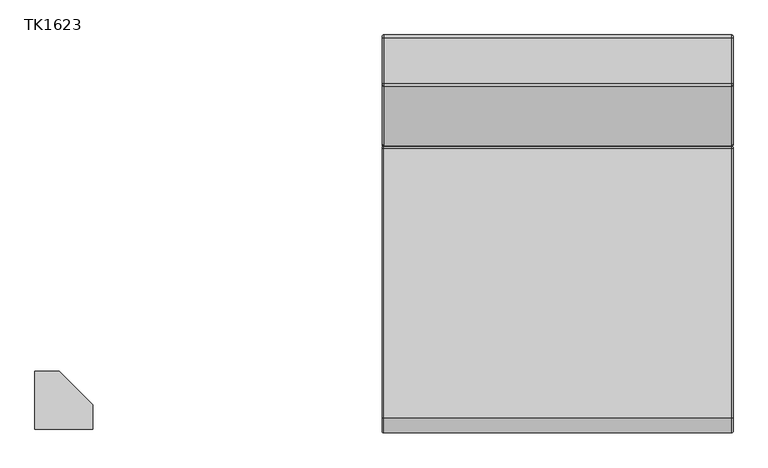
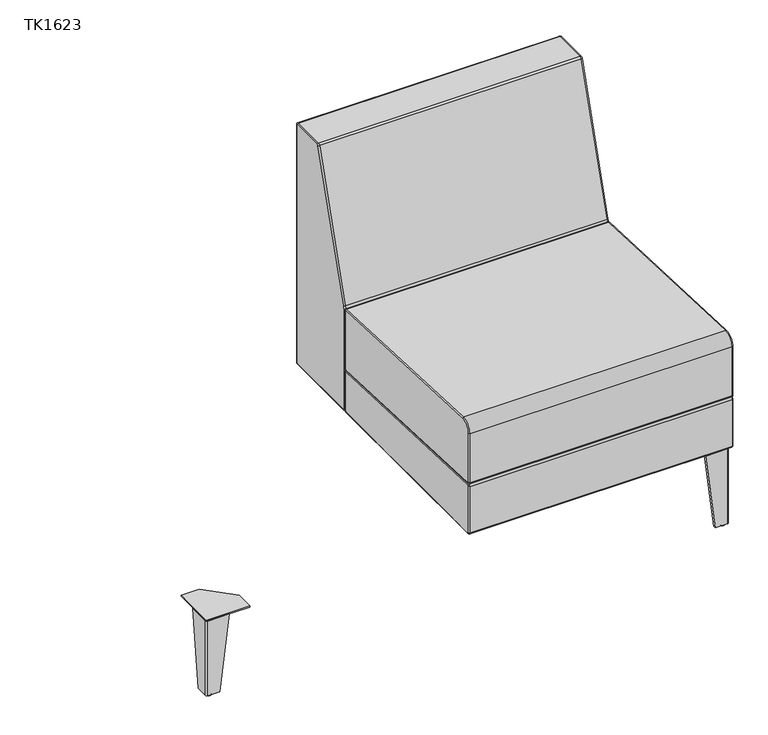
"""IFC4 building model written with IfcOpenShell, lengths in millimetres: furniture geometry, JSI-Teekan-Two_Seat_Lounge : TK1623."""

from ifc_helpers import new_model, si_unit, point, frame, origin, place, context, project, spatial, polyline, circle_curve, ellipse_curve, trimmed, outline, extrude, source, transform, mapped, element, save
from ifc_brep_helpers import plane_surface, cylinder_surface, revolved_surface, spline_surface, advanced_brep


def tk1623_fd01873e(model_context):
    return source(origin(), model_context, "Body", "SolidModel", [
        advanced_brep(
        [(613.56875, 148.7693192, 295.6513391), (613.56875, 153.733973, 300.4095468), (615.95, 151.352723, 300.4095468), (615.95, 148.8703961, 298.0304429), (2.38125, 148.7693192, 295.6513391), (2.38125, 153.733973, 300.4095468), (0.0, 148.8703961, 298.0304429), (0.0, 151.352723, 300.4095468), (615.95, -344.5512855, 318.9936072), (613.56875, -344.6523625, 316.6145034), (2.38125, -344.6523625, 316.6145034), (0.0, -344.5512855, 318.9936072), (613.56875, -322.7527962, 467.50355), (615.95, -322.8538731, 465.1244462), (615.95, 149.0725499, 445.0745142), (613.56875, 149.1736269, 447.4536181), (2.38125, 149.1736269, 447.4536181), (2.38125, -322.7527962, 467.50355), (0.0, 149.0725499, 445.0745142), (0.0, -322.8538731, 465.1244462), (615.95, 151.352723, 442.6954104), (613.56875, 153.733973, 442.6954104), (2.38125, 153.733973, 442.6954104), (0.0, 151.352723, 442.6954104), (615.95, -346.8497, 321.3917439), (613.56875, -349.23095, 321.3917439), (2.38125, -349.23095, 321.3917439), (0.0, -346.8497, 321.3917439), (615.95, -346.8497, 442.1264425), (613.56875, -349.23095, 442.1264425), (2.38125, -349.23095, 442.1264425), (0.0, -346.8497, 442.1264425)],
        [
            (0, 1, circle_curve(frame((613.56875, 148.971473, 300.4095468), z_axis=(1.0, 0.0, 0.0), x_axis=(0.0, 1.0, 0.0)), 4.7625)),
            (1, 2, circle_curve(frame((613.56875, 151.352723, 300.4095468), z_axis=(0.0, 0.0, -1.0), x_axis=(1.0, 0.0, 0.0)), 2.38125)),
            (2, 3, circle_curve(frame((615.95, 148.971473, 300.4095468), z_axis=(-1.0, 0.0, 0.0), x_axis=(0.0, 1.0, 0.0)), 2.38125)),
            (3, 0, circle_curve(frame((613.56875, 148.8703961, 298.0304429), z_axis=(0.0, 0.9990987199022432, -0.04244700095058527), x_axis=(1.0, 0.0, 0.0)), 2.38125)),
            (0, 4),
            (4, 5, circle_curve(frame((2.38125, 148.971473, 300.4095468), z_axis=(1.0, 0.0, 0.0), x_axis=(0.0, 1.0, 0.0)), 4.7625)),
            (5, 1),
            (4, 6, circle_curve(frame((2.38125, 148.8703961, 298.0304429), z_axis=(0.0, 0.999098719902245, -0.042447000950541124), x_axis=(1.0, 0.0, 0.0)), 2.38125)),
            (6, 7, circle_curve(frame((0.0, 148.971473, 300.4095468), z_axis=(1.0, 0.0, 0.0), x_axis=(0.0, 1.0, 0.0)), 2.38125)),
            (7, 5, circle_curve(frame((2.38125, 151.352723, 300.4095468), z_axis=(0.0, 0.0, -1.0), x_axis=(1.0, 0.0, 0.0)), 2.38125)),
            (3, 8),
            (8, 9, circle_curve(frame((613.56875, -344.5512855, 318.9936072), z_axis=(0.0, 0.9990987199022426, -0.04244700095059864), x_axis=(1.0, 0.0, 0.0)), 2.38125)),
            (9, 0),
            (9, 10),
            (10, 4),
            (10, 11, circle_curve(frame((2.38125, -344.5512855, 318.9936072), z_axis=(0.0, 0.9990987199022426, -0.04244700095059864), x_axis=(1.0, 0.0, 0.0)), 2.38125)),
            (11, 6),
            (12, 13, circle_curve(frame((613.56875, -322.8538731, 465.1244462), z_axis=(0.0, 0.9990987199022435, -0.0424470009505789), x_axis=(1.0, 0.0, 0.0)), 2.38125)),
            (13, 14),
            (14, 15, circle_curve(frame((613.56875, 149.0725499, 445.0745142), z_axis=(0.0, -0.9990987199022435, 0.0424470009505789), x_axis=(1.0, 0.0, 0.0)), 2.38125)),
            (15, 12),
            (15, 16),
            (16, 17),
            (17, 12),
            (16, 18, circle_curve(frame((2.38125, 149.0725499, 445.0745142), z_axis=(0.0, -0.9990987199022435, 0.0424470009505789), x_axis=(1.0, 0.0, 0.0)), 2.38125)),
            (18, 19),
            (19, 17, circle_curve(frame((2.38125, -322.8538731, 465.1244462), z_axis=(0.0, 0.9990987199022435, -0.0424470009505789), x_axis=(1.0, 0.0, 0.0)), 2.38125)),
            (14, 20, circle_curve(frame((615.95, 148.971473, 442.6954104), z_axis=(-1.0, 0.0, 0.0), x_axis=(0.0, 0.04244700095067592, 0.9990987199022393)), 2.38125)),
            (20, 21, circle_curve(frame((613.56875, 151.352723, 442.6954104), z_axis=(0.0, 0.0, 1.0), x_axis=(1.0, 0.0, 0.0)), 2.38125)),
            (21, 15, circle_curve(frame((613.56875, 148.971473, 442.6954104), z_axis=(1.0, 0.0, 0.0), x_axis=(0.0, 0.04244700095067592, 0.9990987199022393)), 4.7625)),
            (21, 22),
            (22, 16, circle_curve(frame((2.38125, 148.971473, 442.6954104), z_axis=(1.0, 0.0, 0.0), x_axis=(0.0, 0.04244700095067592, 0.9990987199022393)), 4.7625)),
            (22, 23, circle_curve(frame((2.38125, 151.352723, 442.6954104), z_axis=(0.0, 0.0, 1.0), x_axis=(1.0, 0.0, 0.0)), 2.38125)),
            (23, 18, circle_curve(frame((0.0, 148.971473, 442.6954104), z_axis=(1.0, 0.0, 0.0), x_axis=(0.0, 0.04244700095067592, 0.9990987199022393)), 2.38125)),
            (1, 21),
            (20, 2),
            (5, 22),
            (7, 23),
            (8, 24, circle_curve(frame((615.95, -344.4494, 321.3917439), z_axis=(-1.0, 0.0, 0.0), x_axis=(0.0, -0.04244700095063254, -0.9990987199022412)), 2.4003)),
            (24, 25, circle_curve(frame((613.56875, -346.8497, 321.3917439), z_axis=(0.0, 0.0, -1.0), x_axis=(1.0, 0.0, 0.0)), 2.38125)),
            (25, 9, circle_curve(frame((613.56875, -344.4494, 321.3917439), z_axis=(1.0, 0.0, 0.0), x_axis=(0.0, -0.04244700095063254, -0.9990987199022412)), 4.78155)),
            (25, 26),
            (26, 10, circle_curve(frame((2.38125, -344.4494, 321.3917439), z_axis=(1.0, 0.0, 0.0), x_axis=(0.0, -0.04244700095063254, -0.9990987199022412)), 4.78155)),
            (26, 27, circle_curve(frame((2.38125, -346.8497, 321.3917439), z_axis=(0.0, 0.0, -1.0), x_axis=(1.0, 0.0, 0.0)), 2.38125)),
            (27, 11, circle_curve(frame((0.0, -344.4494, 321.3917439), z_axis=(1.0, 0.0, 0.0), x_axis=(0.0, -0.04244700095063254, -0.9990987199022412)), 2.4003)),
            (24, 28),
            (28, 29, circle_curve(frame((613.56875, -346.8497, 442.1264425), z_axis=(0.0, 0.0, -1.0), x_axis=(1.0, 0.0, 0.0)), 2.38125)),
            (29, 25),
            (29, 30),
            (30, 26),
            (30, 31, circle_curve(frame((2.38125, -346.8497, 442.1264425), z_axis=(0.0, 0.0, -1.0), x_axis=(1.0, 0.0, 0.0)), 2.38125)),
            (31, 27),
            (13, 28, circle_curve(frame((615.95, -323.83095, 442.1264425), z_axis=(1.0, 0.0, 0.0), x_axis=(0.0, -1.0, 0.0)), 23.01875)),
            (12, 29, circle_curve(frame((613.56875, -323.83095, 442.1264425), z_axis=(1.0, 0.0, 0.0), x_axis=(0.0, -1.0, 0.0)), 25.4)),
            (17, 30, circle_curve(frame((2.38125, -323.83095, 442.1264425), z_axis=(1.0, 0.0, 0.0), x_axis=(0.0, -1.0, 0.0)), 25.4)),
            (19, 31, circle_curve(frame((0.0, -323.83095, 442.1264425), z_axis=(1.0, 0.0, 0.0), x_axis=(0.0, -1.0, 0.0)), 23.01875)),
        ],
        [
            revolved_surface(trimmed(ellipse_curve(frame((613.56875, 151.352723, 300.4095468), z_axis=(0.0, 0.0, 1.0), x_axis=(1.0, 0.0, 0.0)), 2.38125, 2.38125), [point((615.95, 151.352723, 300.4095468))], [point((613.56875, 153.733973, 300.4095468))], True, "CARTESIAN"), (307.975, 148.971473, 300.4095468), (-1.0, 0.0, 0.0)),
            cylinder_surface(frame((307.975, 148.971473, 300.4095468), z_axis=(-1.0, 0.0, 0.0), x_axis=(0.0, 1.0, 0.0)), 4.7625),
            revolved_surface(trimmed(ellipse_curve(frame((2.38125, 151.352723, 300.4095468), z_axis=(0.0, 0.0, 1.0), x_axis=(1.0, 0.0, 0.0)), 2.38125, 2.38125), [point((2.38125, 153.733973, 300.4095468))], [point((0.0, 151.352723, 300.4095468))], True, "CARTESIAN"), (307.975, 148.971473, 300.4095468), (-1.0, 0.0, 0.0)),
            cylinder_surface(frame((613.56875, 148.8703961, 298.0304429), z_axis=(0.0, 0.9990987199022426, -0.04244700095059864), x_axis=(1.0, 0.0, 0.0)), 2.38125),
            plane_surface(frame((613.56875, 148.7693192, 295.6513391), z_axis=(0.0, -0.04244700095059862, -0.9990987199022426), x_axis=(0.0, -0.9990987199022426, 0.04244700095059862))),
            cylinder_surface(frame((2.38125, 148.8703961, 298.0304429), z_axis=(0.0, 0.9990987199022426, -0.04244700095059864), x_axis=(1.0, 0.0, 0.0)), 2.38125),
            cylinder_surface(frame((613.56875, -322.8538731, 465.1244462), z_axis=(0.0, -0.9990987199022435, 0.0424470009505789), x_axis=(1.0, 0.0, 0.0)), 2.38125),
            plane_surface(frame((613.56875, -322.7527962, 467.50355), z_axis=(0.0, 0.04244700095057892, 0.9990987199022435), x_axis=(0.0, 0.9990987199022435, -0.04244700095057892))),
            cylinder_surface(frame((2.38125, -322.8538731, 465.1244462), z_axis=(0.0, -0.9990987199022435, 0.0424470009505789), x_axis=(1.0, 0.0, 0.0)), 2.38125),
            revolved_surface(trimmed(ellipse_curve(frame((613.56875, 149.0725499, 445.0745142), z_axis=(0.0, -0.9990987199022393, 0.04244700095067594), x_axis=(1.0, 0.0, 0.0)), 2.38125, 2.38125), [point((615.95, 149.0725499, 445.0745142))], [point((613.56875, 149.1736269, 447.4536181))], True, "CARTESIAN"), (307.975, 148.971473, 442.6954104), (-1.0, 0.0, 0.0)),
            cylinder_surface(frame((307.975, 148.971473, 442.6954104), z_axis=(-1.0, 0.0, 0.0), x_axis=(0.0, 0.04244700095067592, 0.9990987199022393)), 4.7625),
            revolved_surface(trimmed(ellipse_curve(frame((2.38125, 149.0725499, 445.0745142), z_axis=(0.0, -0.9990987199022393, 0.04244700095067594), x_axis=(1.0, 0.0, 0.0)), 2.38125, 2.38125), [point((2.38125, 149.1736269, 447.4536181))], [point((0.0, 149.0725499, 445.0745142))], True, "CARTESIAN"), (307.975, 148.971473, 442.6954104), (-1.0, 0.0, 0.0)),
            cylinder_surface(frame((613.56875, 151.352723, 442.6954104), z_axis=(0.0, 0.0, 1.0), x_axis=(1.0, 0.0, 0.0)), 2.38125),
            plane_surface(frame((613.56875, 153.733973, 442.6954104), z_axis=(0.0, 1.0, 0.0), x_axis=(0.0, 0.0, -1.0))),
            cylinder_surface(frame((2.38125, 151.352723, 442.6954104), z_axis=(0.0, 0.0, 1.0), x_axis=(1.0, 0.0, 0.0)), 2.38125),
            revolved_surface(trimmed(ellipse_curve(frame((613.56875, -344.5512855, 318.9936072), z_axis=(0.0, 0.9990987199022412, -0.042447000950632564), x_axis=(1.0, 0.0, 0.0)), 2.38125, 2.38125), [point((615.95, -344.5512855, 318.9936072))], [point((613.56875, -344.6523625, 316.6145034))], True, "CARTESIAN"), (307.975, -344.4494, 321.3917439), (-1.0, 0.0, 0.0)),
            cylinder_surface(frame((307.975, -344.4494, 321.3917439), z_axis=(-1.0, 0.0, 0.0), x_axis=(0.0, -0.04244700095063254, -0.9990987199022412)), 4.78155),
            revolved_surface(trimmed(ellipse_curve(frame((2.38125, -344.5512855, 318.9936072), z_axis=(0.0, 0.9990987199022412, -0.042447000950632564), x_axis=(1.0, 0.0, 0.0)), 2.38125, 2.38125), [point((2.38125, -344.6523625, 316.6145034))], [point((0.0, -344.5512855, 318.9936072))], True, "CARTESIAN"), (307.975, -344.4494, 321.3917439), (-1.0, 0.0, 0.0)),
            cylinder_surface(frame((613.56875, -346.8497, 321.3917439), z_axis=(0.0, 0.0, -1.0), x_axis=(1.0, 0.0, 0.0)), 2.38125),
            plane_surface(frame((613.56875, -349.23095, 321.3917439), z_axis=(0.0, -1.0, 0.0), x_axis=(0.0, 0.0, 1.0))),
            cylinder_surface(frame((2.38125, -346.8497, 321.3917439), z_axis=(0.0, 0.0, -1.0), x_axis=(1.0, 0.0, 0.0)), 2.38125),
            plane_surface(frame((615.95, -323.83095, 442.1264425), z_axis=(1.0, 0.0, 0.0), x_axis=(0.0, -1.0, 0.0))),
            revolved_surface(trimmed(ellipse_curve(frame((613.56875, -346.8497, 442.1264425), z_axis=(0.0, 0.0, -1.0), x_axis=(1.0, 0.0, 0.0)), 2.38125, 2.38125), [point((615.95, -346.8497, 442.1264425))], [point((613.56875, -349.23095, 442.1264425))], True, "CARTESIAN"), (307.975, -323.83095, 442.1264425), (-1.0, 0.0, 0.0)),
            cylinder_surface(frame((307.975, -323.83095, 442.1264425), z_axis=(-1.0, 0.0, 0.0), x_axis=(0.0, -1.0, 0.0)), 25.4),
            revolved_surface(trimmed(ellipse_curve(frame((2.38125, -346.8497, 442.1264425), z_axis=(0.0, 0.0, -1.0), x_axis=(1.0, 0.0, 0.0)), 2.38125, 2.38125), [point((2.38125, -349.23095, 442.1264425))], [point((0.0, -346.8497, 442.1264425))], True, "CARTESIAN"), (307.975, -323.83095, 442.1264425), (-1.0, 0.0, 0.0)),
            plane_surface(frame((0.0, -323.83095, 442.1264425), z_axis=(-1.0, 0.0, 0.0), x_axis=(0.0, -1.0, 0.0))),
        ],
        [
            (0, [[1, 2, 3, 4]]),
            (1, [[-1, 5, 6, 7]]),
            (2, [[-6, 8, 9, 10]]),
            (3, [[-4, 11, 12, 13]]),
            (4, [[-5, -13, 14, 15]]),
            (5, [[-8, -15, 16, 17]]),
            (6, [[18, 19, 20, 21]]),
            (7, [[-21, 22, 23, 24]]),
            (8, [[-23, 25, 26, 27]]),
            (9, [[-20, 28, 29, 30]]),
            (10, [[-22, -30, 31, 32]]),
            (11, [[-25, -32, 33, 34]]),
            (12, [[-2, 35, -29, 36]]),
            (13, [[-7, 37, -31, -35]]),
            (14, [[-10, 38, -33, -37]]),
            (15, [[-12, 39, 40, 41]]),
            (16, [[-14, -41, 42, 43]]),
            (17, [[-16, -43, 44, 45]]),
            (18, [[-40, 46, 47, 48]]),
            (19, [[-42, -48, 49, 50]]),
            (20, [[-44, -50, 51, 52]]),
            (21, [[-3, -36, -28, -19, 53, -46, -39, -11]]),
            (22, [[-18, 54, -47, -53]]),
            (23, [[-24, 55, -49, -54]]),
            (24, [[-27, 56, -51, -55]]),
            (25, [[-9, -17, -45, -52, -56, -26, -34, -38]]),
        ],
    ),
        advanced_brep(
        [(2.38125, -349.25, 197.5346851), (613.56875, -349.25, 197.5346851), (613.56875, -349.25, 311.8407029), (2.38125, -349.25, 311.8407029), (0.0, -346.86875, 311.8407029), (0.0, -346.86875, 197.5346851), (615.95, -346.86875, 197.5346851), (615.95, -346.86875, 311.8407029), (2.38125, -344.2853462, 316.5989106), (613.56875, -344.2853462, 316.5989106), (613.56875, 149.169864, 295.6343219), (2.38125, 149.169864, 295.6343219), (0.0, 149.0687871, 293.255218), (0.0, -344.3864231, 314.2198068), (615.95, -344.3864231, 314.2198068), (615.95, 149.0687871, 293.255218), (613.56875, 153.7302102, 290.8761142), (2.38125, 153.7302102, 290.8761142), (0.0, 151.3489602, 290.8761142), (615.95, 151.3489602, 290.8761142), (613.56875, 153.7302102, 197.5346851), (2.38125, 153.7302102, 197.5346851), (0.0, 151.3489602, 197.5346851), (615.95, 151.3489602, 197.5346851), (613.56875, 148.9677102, 192.7721851), (2.38125, 148.9677102, 192.7721851), (0.0, 148.9677102, 195.1534351), (615.95, 148.9677102, 195.1534351), (613.56875, -344.4875, 192.7721851), (2.38125, -344.4875, 192.7721851), (0.0, -344.4875, 195.1534351), (615.95, -344.4875, 195.1534351)],
        [
            (0, 1),
            (1, 2),
            (2, 3),
            (3, 0),
            (3, 4, circle_curve(frame((2.38125, -346.86875, 311.8407029), z_axis=(0.0, 0.0, -1.0), x_axis=(0.0, -1.0, 0.0)), 2.38125)),
            (4, 5),
            (5, 0, circle_curve(frame((2.38125, -346.86875, 197.5346851), z_axis=(0.0, 0.0, 1.0), x_axis=(0.0, -1.0, 0.0)), 2.38125)),
            (1, 6, circle_curve(frame((613.56875, -346.86875, 197.5346851), z_axis=(0.0, 0.0, 1.0), x_axis=(0.0, -1.0, 0.0)), 2.38125)),
            (6, 7),
            (7, 2, circle_curve(frame((613.56875, -346.86875, 311.8407029), z_axis=(0.0, 0.0, -1.0), x_axis=(0.0, -1.0, 0.0)), 2.38125)),
            (8, 9),
            (9, 10),
            (10, 11),
            (11, 8),
            (11, 12, circle_curve(frame((2.38125, 149.0687871, 293.255218), z_axis=(0.0, -0.9990987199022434, 0.04244700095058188), x_axis=(0.0, 0.04244700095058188, 0.9990987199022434)), 2.38125)),
            (12, 13),
            (13, 8, circle_curve(frame((2.38125, -344.3864231, 314.2198068), z_axis=(0.0, 0.9990987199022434, -0.04244700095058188), x_axis=(0.0, 0.04244700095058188, 0.9990987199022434)), 2.38125)),
            (9, 14, circle_curve(frame((613.56875, -344.3864231, 314.2198068), z_axis=(0.0, 0.9990987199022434, -0.04244700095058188), x_axis=(0.0, 0.04244700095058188, 0.9990987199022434)), 2.38125)),
            (14, 15),
            (15, 10, circle_curve(frame((613.56875, 149.0687871, 293.255218), z_axis=(0.0, -0.9990987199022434, 0.04244700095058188), x_axis=(0.0, 0.04244700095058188, 0.9990987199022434)), 2.38125)),
            (10, 16, circle_curve(frame((613.56875, 148.9677102, 290.8761142), z_axis=(-1.0, 0.0, 0.0), x_axis=(0.0, 0.0424470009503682, 0.9990987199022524)), 4.7625)),
            (16, 17),
            (17, 11, circle_curve(frame((2.38125, 148.9677102, 290.8761142), z_axis=(1.0, 0.0, 0.0), x_axis=(0.0, 0.0424470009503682, 0.9990987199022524)), 4.7625)),
            (17, 18, circle_curve(frame((2.38125, 151.3489602, 290.8761142), z_axis=(0.0, 0.0, 1.0), x_axis=(0.0, 1.0, 0.0)), 2.38125)),
            (18, 12, circle_curve(frame((0.0, 148.9677102, 290.8761142), z_axis=(1.0, 0.0, 0.0), x_axis=(0.0, 0.0424470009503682, 0.9990987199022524)), 2.38125)),
            (15, 19, circle_curve(frame((615.95, 148.9677102, 290.8761142), z_axis=(-1.0, 0.0, 0.0), x_axis=(0.0, 0.0424470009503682, 0.9990987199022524)), 2.38125)),
            (19, 16, circle_curve(frame((613.56875, 151.3489602, 290.8761142), z_axis=(0.0, 0.0, 1.0), x_axis=(0.0, 1.0, 0.0)), 2.38125)),
            (16, 20),
            (20, 21),
            (21, 17),
            (21, 22, circle_curve(frame((2.38125, 151.3489602, 197.5346851), z_axis=(0.0, 0.0, 1.0), x_axis=(0.0, 1.0, 0.0)), 2.38125)),
            (22, 18),
            (19, 23),
            (23, 20, circle_curve(frame((613.56875, 151.3489602, 197.5346851), z_axis=(0.0, 0.0, 1.0), x_axis=(0.0, 1.0, 0.0)), 2.38125)),
            (20, 24, circle_curve(frame((613.56875, 148.9677102, 197.5346851), z_axis=(-1.0, 0.0, 0.0), x_axis=(0.0, 1.0, 0.0)), 4.7625)),
            (24, 25),
            (25, 21, circle_curve(frame((2.38125, 148.9677102, 197.5346851), z_axis=(1.0, 0.0, 0.0), x_axis=(0.0, 1.0, 0.0)), 4.7625)),
            (25, 26, circle_curve(frame((2.38125, 148.9677102, 195.1534351), z_axis=(0.0, 1.0, 0.0), x_axis=(0.0, 0.0, -1.0)), 2.38125)),
            (26, 22, circle_curve(frame((0.0, 148.9677102, 197.5346851), z_axis=(1.0, 0.0, 0.0), x_axis=(0.0, 1.0, 0.0)), 2.38125)),
            (23, 27, circle_curve(frame((615.95, 148.9677102, 197.5346851), z_axis=(-1.0, 0.0, 0.0), x_axis=(0.0, 1.0, 0.0)), 2.38125)),
            (27, 24, circle_curve(frame((613.56875, 148.9677102, 195.1534351), z_axis=(0.0, 1.0, 0.0), x_axis=(0.0, 0.0, -1.0)), 2.38125)),
            (24, 28),
            (28, 29),
            (29, 25),
            (29, 30, circle_curve(frame((2.38125, -344.4875, 195.1534351), z_axis=(0.0, 1.0, 0.0), x_axis=(0.0, 0.0, -1.0)), 2.38125)),
            (30, 26),
            (27, 31),
            (31, 28, circle_curve(frame((613.56875, -344.4875, 195.1534351), z_axis=(0.0, 1.0, 0.0), x_axis=(0.0, 0.0, -1.0)), 2.38125)),
            (0, 29, circle_curve(frame((2.38125, -344.4875, 197.5346851), z_axis=(1.0, 0.0, 0.0), x_axis=(0.0, 0.0, -1.0)), 4.7625)),
            (28, 1, circle_curve(frame((613.56875, -344.4875, 197.5346851), z_axis=(-1.0, 0.0, 0.0), x_axis=(0.0, 0.0, -1.0)), 4.7625)),
            (5, 30, circle_curve(frame((0.0, -344.4875, 197.5346851), z_axis=(1.0, 0.0, 0.0), x_axis=(0.0, 0.0, -1.0)), 2.38125)),
            (31, 6, circle_curve(frame((615.95, -344.4875, 197.5346851), z_axis=(-1.0, 0.0, 0.0), x_axis=(0.0, 0.0, -1.0)), 2.38125)),
            (2, 9, circle_curve(frame((613.56875, -344.4875, 311.8407029), z_axis=(-1.0, 0.0, 0.0), x_axis=(0.0, -1.0, 0.0)), 4.7625)),
            (8, 3, circle_curve(frame((2.38125, -344.4875, 311.8407029), z_axis=(1.0, 0.0, 0.0), x_axis=(0.0, -1.0, 0.0)), 4.7625)),
            (13, 4, circle_curve(frame((0.0, -344.4875, 311.8407029), z_axis=(1.0, 0.0, 0.0), x_axis=(0.0, -1.0, 0.0)), 2.38125)),
            (14, 7, circle_curve(frame((615.95, -344.4875, 311.8407029), z_axis=(1.0, 0.0, 0.0), x_axis=(0.0, -1.0, 0.0)), 2.38125)),
        ],
        [
            plane_surface(frame((613.56875, -349.25, 197.5346851), z_axis=(0.0, -1.0, 0.0), x_axis=(0.0, 0.0, 1.0))),
            cylinder_surface(frame((2.38125, -346.86875, 197.5346851), z_axis=(0.0, 0.0, -1.0), x_axis=(0.0, -1.0, 0.0)), 2.38125),
            cylinder_surface(frame((613.56875, -346.86875, 197.5346851), z_axis=(0.0, 0.0, -1.0), x_axis=(0.0, -1.0, 0.0)), 2.38125),
            plane_surface(frame((613.56875, -344.2853462, 316.5989106), z_axis=(0.0, 0.04244700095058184, 0.9990987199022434), x_axis=(0.0, 0.9990987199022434, -0.04244700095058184))),
            cylinder_surface(frame((2.38125, -344.3864231, 314.2198068), z_axis=(0.0, -0.9990987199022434, 0.04244700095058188), x_axis=(0.0, 0.04244700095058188, 0.9990987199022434)), 2.38125),
            cylinder_surface(frame((613.56875, -344.3864231, 314.2198068), z_axis=(0.0, -0.9990987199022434, 0.04244700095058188), x_axis=(0.0, 0.04244700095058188, 0.9990987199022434)), 2.38125),
            cylinder_surface(frame((307.975, 148.9677102, 290.8761142), z_axis=(-1.0, 0.0, 0.0), x_axis=(0.0, 0.0424470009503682, 0.9990987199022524)), 4.7625),
            revolved_surface(trimmed(ellipse_curve(frame((2.38125, 149.0687871, 293.255218), z_axis=(0.0, -0.9990987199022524, 0.042447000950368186), x_axis=(0.0, 0.042447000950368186, 0.9990987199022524)), 2.38125, 2.38125), [point((2.38125, 149.169864, 295.6343219))], [point((0.0, 149.0687871, 293.255218))], True, "CARTESIAN"), (307.975, 148.9677102, 290.8761142), (-1.0, 0.0, 0.0)),
            revolved_surface(trimmed(ellipse_curve(frame((613.56875, 149.0687871, 293.255218), z_axis=(0.0, -0.9990987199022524, 0.042447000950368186), x_axis=(0.0, 0.042447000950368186, 0.9990987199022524)), 2.38125, 2.38125), [point((615.95, 149.0687871, 293.255218))], [point((613.56875, 149.169864, 295.6343219))], True, "CARTESIAN"), (307.975, 148.9677102, 290.8761142), (-1.0, 0.0, 0.0)),
            plane_surface(frame((613.56875, 153.7302102, 290.8761142), z_axis=(0.0, 1.0, 0.0), x_axis=(0.0, 0.0, -1.0))),
            cylinder_surface(frame((2.38125, 151.3489602, 290.8761142), z_axis=(0.0, 0.0, 1.0), x_axis=(0.0, 1.0, 0.0)), 2.38125),
            cylinder_surface(frame((613.56875, 151.3489602, 290.8761142), z_axis=(0.0, 0.0, 1.0), x_axis=(0.0, 1.0, 0.0)), 2.38125),
            cylinder_surface(frame((307.975, 148.9677102, 197.5346851), z_axis=(-1.0, 0.0, 0.0), x_axis=(0.0, 1.0, 0.0)), 4.7625),
            revolved_surface(trimmed(ellipse_curve(frame((2.38125, 151.3489602, 197.5346851), z_axis=(0.0, 0.0, 1.0), x_axis=(0.0, 1.0, 0.0)), 2.38125, 2.38125), [point((2.38125, 153.7302102, 197.5346851))], [point((0.0, 151.3489602, 197.5346851))], True, "CARTESIAN"), (307.975, 148.9677102, 197.5346851), (-1.0, 0.0, 0.0)),
            revolved_surface(trimmed(ellipse_curve(frame((613.56875, 151.3489602, 197.5346851), z_axis=(0.0, 0.0, 1.0), x_axis=(0.0, 1.0, 0.0)), 2.38125, 2.38125), [point((615.95, 151.3489602, 197.5346851))], [point((613.56875, 153.7302102, 197.5346851))], True, "CARTESIAN"), (307.975, 148.9677102, 197.5346851), (-1.0, 0.0, 0.0)),
            plane_surface(frame((613.56875, 148.9677102, 192.7721851), z_axis=(0.0, 0.0, -1.0), x_axis=(0.0, -1.0, 0.0))),
            cylinder_surface(frame((2.38125, 148.9677102, 195.1534351), z_axis=(0.0, 1.0, 0.0), x_axis=(0.0, 0.0, -1.0)), 2.38125),
            cylinder_surface(frame((613.56875, 148.9677102, 195.1534351), z_axis=(0.0, 1.0, 0.0), x_axis=(0.0, 0.0, -1.0)), 2.38125),
            cylinder_surface(frame((307.975, -344.4875, 197.5346851), z_axis=(-1.0, 0.0, 0.0), x_axis=(0.0, 0.0, -1.0)), 4.7625),
            revolved_surface(trimmed(ellipse_curve(frame((2.38125, -344.4875, 195.1534351), z_axis=(0.0, 1.0, 0.0), x_axis=(0.0, 0.0, -1.0)), 2.38125, 2.38125), [point((2.38125, -344.4875, 192.7721851))], [point((0.0, -344.4875, 195.1534351))], True, "CARTESIAN"), (307.975, -344.4875, 197.5346851), (-1.0, 0.0, 0.0)),
            revolved_surface(trimmed(ellipse_curve(frame((613.56875, -344.4875, 195.1534351), z_axis=(0.0, 1.0, 0.0), x_axis=(0.0, 0.0, -1.0)), 2.38125, 2.38125), [point((615.95, -344.4875, 195.1534351))], [point((613.56875, -344.4875, 192.7721851))], True, "CARTESIAN"), (307.975, -344.4875, 197.5346851), (-1.0, 0.0, 0.0)),
            cylinder_surface(frame((307.975, -344.4875, 311.8407029), z_axis=(-1.0, 0.0, 0.0), x_axis=(0.0, -1.0, 0.0)), 4.7625),
            revolved_surface(trimmed(ellipse_curve(frame((2.38125, -346.86875, 311.8407029), z_axis=(0.0, 0.0, -1.0), x_axis=(0.0, -1.0, 0.0)), 2.38125, 2.38125), [point((2.38125, -349.25, 311.8407029))], [point((0.0, -346.86875, 311.8407029))], True, "CARTESIAN"), (307.975, -344.4875, 311.8407029), (-1.0, 0.0, 0.0)),
            plane_surface(frame((0.0, -344.4875, 311.8407029), z_axis=(-1.0, 0.0, 0.0), x_axis=(0.0, -1.0, 0.0))),
            plane_surface(frame((615.95, -344.4875, 311.8407029), z_axis=(1.0, 0.0, 0.0), x_axis=(0.0, -1.0, 0.0))),
            revolved_surface(trimmed(ellipse_curve(frame((613.56875, -346.86875, 311.8407029), z_axis=(0.0, 0.0, -1.0), x_axis=(0.0, -1.0, 0.0)), 2.38125, 2.38125), [point((615.95, -346.86875, 311.8407029))], [point((613.56875, -349.25, 311.8407029))], True, "CARTESIAN"), (307.975, -344.4875, 311.8407029), (-1.0, 0.0, 0.0)),
        ],
        [
            (0, [[1, 2, 3, 4]]),
            (1, [[-4, 5, 6, 7]]),
            (2, [[-2, 8, 9, 10]]),
            (3, [[11, 12, 13, 14]]),
            (4, [[-14, 15, 16, 17]]),
            (5, [[-12, 18, 19, 20]]),
            (6, [[-13, 21, 22, 23]]),
            (7, [[-15, -23, 24, 25]]),
            (8, [[-20, 26, 27, -21]]),
            (9, [[-22, 28, 29, 30]]),
            (10, [[-24, -30, 31, 32]]),
            (11, [[-27, 33, 34, -28]]),
            (12, [[-29, 35, 36, 37]]),
            (13, [[-31, -37, 38, 39]]),
            (14, [[-34, 40, 41, -35]]),
            (15, [[-36, 42, 43, 44]]),
            (16, [[-38, -44, 45, 46]]),
            (17, [[-41, 47, 48, -42]]),
            (18, [[-1, 49, -43, 50]]),
            (19, [[-7, 51, -45, -49]]),
            (20, [[-8, -50, -48, 52]]),
            (21, [[-3, 53, -11, 54]]),
            (22, [[-5, -54, -17, 55]]),
            (23, [[-6, -55, -16, -25, -32, -39, -46, -51]]),
            (24, [[-9, -52, -47, -40, -33, -26, -19, 56]]),
            (25, [[-10, -56, -18, -53]]),
        ],
    ),
        advanced_brep(
        [(615.95, 261.4671324, 783.3496278), (615.95, 263.7394056, 785.01875), (613.56875, 263.7394056, 787.4), (613.56875, 259.1948592, 784.0617556), (2.38125, 259.1948592, 784.0617556), (2.38125, 263.7394056, 787.4), (0.0, 263.7394056, 785.01875), (0.0, 261.4671324, 783.3496278), (613.56875, 155.07802, 451.8434221), (615.95, 157.3502932, 451.1312943), (0.0, 157.3502932, 451.1312943), (2.38125, 155.07802, 451.8434221), (613.56875, 153.733973, 443.0605128), (615.95, 156.115223, 443.0605128), (0.0, 156.115223, 443.0605128), (2.38125, 153.733973, 443.0605128), (613.56875, 153.733973, 197.5346851), (615.95, 156.115223, 197.5346851), (0.0, 156.115223, 197.5346851), (2.38125, 153.733973, 197.5346851), (613.56875, 158.496473, 192.7721851), (615.95, 158.496473, 195.1534351), (0.0, 158.496473, 195.1534351), (2.38125, 158.496473, 192.7721851), (613.56875, 344.4875, 192.7721851), (615.95, 344.4875, 195.1534351), (0.0, 344.4875, 195.1534351), (2.38125, 344.4875, 192.7721851), (613.56875, 349.25, 197.5346851), (615.95, 346.86875, 197.5346851), (0.0, 346.86875, 197.5346851), (2.38125, 349.25, 197.5346851), (613.56875, 349.25, 782.6375), (615.95, 346.86875, 782.6375), (0.0, 346.86875, 782.6375), (2.38125, 349.25, 782.6375), (613.56875, 344.4875, 787.4), (615.95, 344.4875, 785.01875), (0.0, 344.4875, 785.01875), (2.38125, 344.4875, 787.4)],
        [
            (0, 1, circle_curve(frame((615.95, 263.7394056, 782.6375), z_axis=(-1.0, 0.0, 0.0), x_axis=(0.0, 0.0, 1.0)), 2.38125)),
            (1, 2, circle_curve(frame((613.56875, 263.7394056, 785.01875), z_axis=(0.0, -1.0, 0.0), x_axis=(0.0, 0.0, -1.0)), 2.38125)),
            (2, 3, circle_curve(frame((613.56875, 263.7394056, 782.6375), z_axis=(1.0, 0.0, 0.0), x_axis=(0.0, 0.0, 1.0)), 4.7625)),
            (3, 0, circle_curve(frame((613.56875, 261.4671324, 783.3496278), z_axis=(0.0, 0.2990562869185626, 0.9542354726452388), x_axis=(0.0, 0.9542354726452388, -0.2990562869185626)), 2.38125)),
            (4, 5, circle_curve(frame((2.38125, 263.7394056, 782.6375), z_axis=(-1.0, 0.0, 0.0), x_axis=(0.0, 0.0, 1.0)), 4.7625)),
            (5, 6, circle_curve(frame((2.38125, 263.7394056, 785.01875), z_axis=(0.0, -1.0, 0.0), x_axis=(0.0, 0.0, -1.0)), 2.38125)),
            (6, 7, circle_curve(frame((0.0, 263.7394056, 782.6375), z_axis=(1.0, 0.0, 0.0), x_axis=(0.0, 0.0, 1.0)), 2.38125)),
            (7, 4, circle_curve(frame((2.38125, 261.4671324, 783.3496278), z_axis=(0.0, 0.29905628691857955, 0.9542354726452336), x_axis=(0.0, 0.9542354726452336, -0.29905628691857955)), 2.38125)),
            (2, 5),
            (4, 3),
            (3, 8),
            (8, 9, circle_curve(frame((613.56875, 157.3502932, 451.1312943), z_axis=(0.0, 0.29905628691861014, 0.954235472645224), x_axis=(0.0, 0.954235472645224, -0.29905628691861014)), 2.38125)),
            (9, 0),
            (7, 10),
            (10, 11, circle_curve(frame((2.38125, 157.3502932, 451.1312943), z_axis=(0.0, 0.29905628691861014, 0.954235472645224), x_axis=(0.0, 0.954235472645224, -0.29905628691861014)), 2.38125)),
            (11, 4),
            (11, 8),
            (8, 12, circle_curve(frame((613.56875, 183.102723, 443.0605128), z_axis=(1.0, 0.0, 0.0), x_axis=(0.0, -0.9542354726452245, 0.29905628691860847)), 29.36875)),
            (12, 13, circle_curve(frame((613.56875, 156.115223, 443.0605128), z_axis=(0.0, 0.0, 1.0), x_axis=(0.0, 1.0, 0.0)), 2.38125)),
            (13, 9, circle_curve(frame((615.95, 183.102723, 443.0605128), z_axis=(-1.0, 0.0, 0.0), x_axis=(0.0, -0.9542354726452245, 0.29905628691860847)), 26.9875)),
            (10, 14, circle_curve(frame((0.0, 183.102723, 443.0605128), z_axis=(1.0, 0.0, 0.0), x_axis=(0.0, -0.9542354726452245, 0.29905628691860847)), 26.9875)),
            (14, 15, circle_curve(frame((2.38125, 156.115223, 443.0605128), z_axis=(0.0, 0.0, 1.0), x_axis=(0.0, 1.0, 0.0)), 2.38125)),
            (15, 11, circle_curve(frame((2.38125, 183.102723, 443.0605128), z_axis=(-1.0, 0.0, 0.0), x_axis=(0.0, -0.9542354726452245, 0.29905628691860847)), 29.36875)),
            (15, 12),
            (12, 16),
            (16, 17, circle_curve(frame((613.56875, 156.115223, 197.5346851), z_axis=(0.0, 0.0, 1.0), x_axis=(0.0, 1.0, 0.0)), 2.38125)),
            (17, 13),
            (14, 18),
            (18, 19, circle_curve(frame((2.38125, 156.115223, 197.5346851), z_axis=(0.0, 0.0, 1.0), x_axis=(0.0, 1.0, 0.0)), 2.38125)),
            (19, 15),
            (19, 16),
            (16, 20, circle_curve(frame((613.56875, 158.496473, 197.5346851), z_axis=(1.0, 0.0, 0.0), x_axis=(0.0, -1.0, 0.0)), 4.7625)),
            (20, 21, circle_curve(frame((613.56875, 158.496473, 195.1534351), z_axis=(0.0, -1.0, 0.0), x_axis=(0.0, 0.0, 1.0)), 2.38125)),
            (21, 17, circle_curve(frame((615.95, 158.496473, 197.5346851), z_axis=(-1.0, 0.0, 0.0), x_axis=(0.0, -1.0, 0.0)), 2.38125)),
            (18, 22, circle_curve(frame((0.0, 158.496473, 197.5346851), z_axis=(1.0, 0.0, 0.0), x_axis=(0.0, -1.0, 0.0)), 2.38125)),
            (22, 23, circle_curve(frame((2.38125, 158.496473, 195.1534351), z_axis=(0.0, -1.0, 0.0), x_axis=(0.0, 0.0, 1.0)), 2.38125)),
            (23, 19, circle_curve(frame((2.38125, 158.496473, 197.5346851), z_axis=(-1.0, 0.0, 0.0), x_axis=(0.0, -1.0, 0.0)), 4.7625)),
            (23, 20),
            (20, 24),
            (24, 25, circle_curve(frame((613.56875, 344.4875, 195.1534351), z_axis=(0.0, -1.0, 0.0), x_axis=(0.0, 0.0, 1.0)), 2.38125)),
            (25, 21),
            (22, 26),
            (26, 27, circle_curve(frame((2.38125, 344.4875, 195.1534351), z_axis=(0.0, -1.0, 0.0), x_axis=(0.0, 0.0, 1.0)), 2.38125)),
            (27, 23),
            (27, 24),
            (24, 28, circle_curve(frame((613.56875, 344.4875, 197.5346851), z_axis=(1.0, 0.0, 0.0), x_axis=(0.0, 0.0, -1.0)), 4.7625)),
            (28, 29, circle_curve(frame((613.56875, 346.86875, 197.5346851), z_axis=(0.0, 0.0, -1.0), x_axis=(0.0, -1.0, 0.0)), 2.38125)),
            (29, 25, circle_curve(frame((615.95, 344.4875, 197.5346851), z_axis=(-1.0, 0.0, 0.0), x_axis=(0.0, 0.0, -1.0)), 2.38125)),
            (26, 30, circle_curve(frame((0.0, 344.4875, 197.5346851), z_axis=(1.0, 0.0, 0.0), x_axis=(0.0, 0.0, -1.0)), 2.38125)),
            (30, 31, circle_curve(frame((2.38125, 346.86875, 197.5346851), z_axis=(0.0, 0.0, -1.0), x_axis=(0.0, -1.0, 0.0)), 2.38125)),
            (31, 27, circle_curve(frame((2.38125, 344.4875, 197.5346851), z_axis=(-1.0, 0.0, 0.0), x_axis=(0.0, 0.0, -1.0)), 4.7625)),
            (31, 28),
            (28, 32),
            (32, 33, circle_curve(frame((613.56875, 346.86875, 782.6375), z_axis=(0.0, 0.0, -1.0), x_axis=(0.0, -1.0, 0.0)), 2.38125)),
            (33, 29),
            (30, 34),
            (34, 35, circle_curve(frame((2.38125, 346.86875, 782.6375), z_axis=(0.0, 0.0, -1.0), x_axis=(0.0, -1.0, 0.0)), 2.38125)),
            (35, 31),
            (35, 32),
            (32, 36, circle_curve(frame((613.56875, 344.4875, 782.6375), z_axis=(1.0, 0.0, 0.0), x_axis=(0.0, 1.0, 0.0)), 4.7625)),
            (36, 37, circle_curve(frame((613.56875, 344.4875, 785.01875), z_axis=(0.0, 1.0, 0.0), x_axis=(0.0, 0.0, -1.0)), 2.38125)),
            (37, 33, circle_curve(frame((615.95, 344.4875, 782.6375), z_axis=(-1.0, 0.0, 0.0), x_axis=(0.0, 1.0, 0.0)), 2.38125)),
            (34, 38, circle_curve(frame((0.0, 344.4875, 782.6375), z_axis=(1.0, 0.0, 0.0), x_axis=(0.0, 1.0, 0.0)), 2.38125)),
            (38, 39, circle_curve(frame((2.38125, 344.4875, 785.01875), z_axis=(0.0, 1.0, 0.0), x_axis=(0.0, 0.0, -1.0)), 2.38125)),
            (39, 35, circle_curve(frame((2.38125, 344.4875, 782.6375), z_axis=(-1.0, 0.0, 0.0), x_axis=(0.0, 1.0, 0.0)), 4.7625)),
            (39, 36),
            (1, 37),
            (36, 2),
            (6, 38),
            (5, 39),
        ],
        [
            revolved_surface(trimmed(ellipse_curve(frame((613.56875, 263.7394056, 785.01875), z_axis=(0.0, 1.0, 0.0), x_axis=(0.0, 0.0, -1.0)), 2.38125, 2.38125), [point((613.56875, 263.7394056, 787.4))], [point((615.95, 263.7394056, 785.01875))], True, "CARTESIAN"), (307.975, 263.7394056, 782.6375), (1.0, 0.0, 0.0)),
            revolved_surface(trimmed(ellipse_curve(frame((2.38125, 263.7394056, 785.01875), z_axis=(0.0, 1.0, 0.0), x_axis=(0.0, 0.0, -1.0)), 2.38125, 2.38125), [point((0.0, 263.7394056, 785.01875))], [point((2.38125, 263.7394056, 787.4))], True, "CARTESIAN"), (307.975, 263.7394056, 782.6375), (1.0, 0.0, 0.0)),
            cylinder_surface(frame((307.975, 263.7394056, 782.6375), z_axis=(1.0, 0.0, 0.0), x_axis=(0.0, 0.0, 1.0)), 4.7625),
            cylinder_surface(frame((613.56875, 261.4671324, 783.3496278), z_axis=(0.0, 0.29905628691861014, 0.954235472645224), x_axis=(0.0, 0.954235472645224, -0.29905628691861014)), 2.38125),
            cylinder_surface(frame((2.38125, 261.4671324, 783.3496278), z_axis=(0.0, 0.29905628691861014, 0.954235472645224), x_axis=(0.0, 0.954235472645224, -0.29905628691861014)), 2.38125),
            plane_surface(frame((2.38125, 259.1948592, 784.0617556), z_axis=(0.0, -0.9542354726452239, 0.29905628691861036), x_axis=(0.0, -0.29905628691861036, -0.9542354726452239))),
            revolved_surface(trimmed(ellipse_curve(frame((613.56875, 157.3502932, 451.1312943), z_axis=(0.0, 0.299056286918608, 0.9542354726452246), x_axis=(0.0, 0.9542354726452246, -0.299056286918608)), 2.38125, 2.38125), [point((613.56875, 155.07802, 451.8434221))], [point((615.95, 157.3502932, 451.1312943))], True, "CARTESIAN"), (307.975, 183.102723, 443.0605128), (1.0, 0.0, 0.0)),
            revolved_surface(trimmed(ellipse_curve(frame((2.38125, 157.3502932, 451.1312943), z_axis=(0.0, 0.299056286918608, 0.9542354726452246), x_axis=(0.0, 0.9542354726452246, -0.299056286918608)), 2.38125, 2.38125), [point((0.0, 157.3502932, 451.1312943))], [point((2.38125, 155.07802, 451.8434221))], True, "CARTESIAN"), (307.975, 183.102723, 443.0605128), (1.0, 0.0, 0.0)),
            cylinder_surface(frame((307.975, 183.102723, 443.0605128), z_axis=(1.0, 0.0, 0.0), x_axis=(0.0, -0.9542354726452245, 0.29905628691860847)), 29.36875),
            cylinder_surface(frame((613.56875, 156.115223, 443.0605128), z_axis=(0.0, 0.0, 1.0), x_axis=(0.0, 1.0, 0.0)), 2.38125),
            cylinder_surface(frame((2.38125, 156.115223, 443.0605128), z_axis=(0.0, 0.0, 1.0), x_axis=(0.0, 1.0, 0.0)), 2.38125),
            plane_surface(frame((2.38125, 153.733973, 443.0605128), z_axis=(0.0, -1.0, 0.0), x_axis=(0.0, 0.0, -1.0))),
            revolved_surface(trimmed(ellipse_curve(frame((613.56875, 156.115223, 197.5346851), z_axis=(0.0, 0.0, 1.0), x_axis=(0.0, 1.0, 0.0)), 2.38125, 2.38125), [point((613.56875, 153.733973, 197.5346851))], [point((615.95, 156.115223, 197.5346851))], True, "CARTESIAN"), (307.975, 158.496473, 197.5346851), (1.0, 0.0, 0.0)),
            revolved_surface(trimmed(ellipse_curve(frame((2.38125, 156.115223, 197.5346851), z_axis=(0.0, 0.0, 1.0), x_axis=(0.0, 1.0, 0.0)), 2.38125, 2.38125), [point((0.0, 156.115223, 197.5346851))], [point((2.38125, 153.733973, 197.5346851))], True, "CARTESIAN"), (307.975, 158.496473, 197.5346851), (1.0, 0.0, 0.0)),
            cylinder_surface(frame((307.975, 158.496473, 197.5346851), z_axis=(1.0, 0.0, 0.0), x_axis=(0.0, -1.0, 0.0)), 4.7625),
            cylinder_surface(frame((613.56875, 158.496473, 195.1534351), z_axis=(0.0, -1.0, 0.0), x_axis=(0.0, 0.0, 1.0)), 2.38125),
            cylinder_surface(frame((2.38125, 158.496473, 195.1534351), z_axis=(0.0, -1.0, 0.0), x_axis=(0.0, 0.0, 1.0)), 2.38125),
            plane_surface(frame((2.38125, 158.496473, 192.7721851), z_axis=(0.0, 0.0, -1.0), x_axis=(0.0, 1.0, 0.0))),
            revolved_surface(trimmed(ellipse_curve(frame((613.56875, 344.4875, 195.1534351), z_axis=(0.0, -1.0, 0.0), x_axis=(0.0, 0.0, 1.0)), 2.38125, 2.38125), [point((613.56875, 344.4875, 192.7721851))], [point((615.95, 344.4875, 195.1534351))], True, "CARTESIAN"), (307.975, 344.4875, 197.5346851), (1.0, 0.0, 0.0)),
            revolved_surface(trimmed(ellipse_curve(frame((2.38125, 344.4875, 195.1534351), z_axis=(0.0, -1.0, 0.0), x_axis=(0.0, 0.0, 1.0)), 2.38125, 2.38125), [point((0.0, 344.4875, 195.1534351))], [point((2.38125, 344.4875, 192.7721851))], True, "CARTESIAN"), (307.975, 344.4875, 197.5346851), (1.0, 0.0, 0.0)),
            cylinder_surface(frame((307.975, 344.4875, 197.5346851), z_axis=(1.0, 0.0, 0.0), x_axis=(0.0, 0.0, -1.0)), 4.7625),
            cylinder_surface(frame((613.56875, 346.86875, 197.5346851), z_axis=(0.0, 0.0, -1.0), x_axis=(0.0, -1.0, 0.0)), 2.38125),
            cylinder_surface(frame((2.38125, 346.86875, 197.5346851), z_axis=(0.0, 0.0, -1.0), x_axis=(0.0, -1.0, 0.0)), 2.38125),
            plane_surface(frame((2.38125, 349.25, 197.5346851), z_axis=(0.0, 1.0, 0.0), x_axis=(0.0, 0.0, 1.0))),
            revolved_surface(trimmed(ellipse_curve(frame((613.56875, 346.86875, 782.6375), z_axis=(0.0, 0.0, -1.0), x_axis=(0.0, -1.0, 0.0)), 2.38125, 2.38125), [point((613.56875, 349.25, 782.6375))], [point((615.95, 346.86875, 782.6375))], True, "CARTESIAN"), (307.975, 344.4875, 782.6375), (1.0, 0.0, 0.0)),
            revolved_surface(trimmed(ellipse_curve(frame((2.38125, 346.86875, 782.6375), z_axis=(0.0, 0.0, -1.0), x_axis=(0.0, -1.0, 0.0)), 2.38125, 2.38125), [point((0.0, 346.86875, 782.6375))], [point((2.38125, 349.25, 782.6375))], True, "CARTESIAN"), (307.975, 344.4875, 782.6375), (1.0, 0.0, 0.0)),
            cylinder_surface(frame((307.975, 344.4875, 782.6375), z_axis=(1.0, 0.0, 0.0), x_axis=(0.0, 1.0, 0.0)), 4.7625),
            cylinder_surface(frame((613.56875, 344.4875, 785.01875), z_axis=(0.0, 1.0, 0.0), x_axis=(0.0, 0.0, -1.0)), 2.38125),
            plane_surface(frame((615.95, 344.4875, 785.01875), z_axis=(1.0, 0.0, 0.0), x_axis=(0.0, -1.0, 0.0))),
            plane_surface(frame((0.0, 344.4875, 783.43125), z_axis=(-1.0, 0.0, 0.0), x_axis=(0.0, -1.0, 0.0))),
            cylinder_surface(frame((2.38125, 344.4875, 785.01875), z_axis=(0.0, 1.0, 0.0), x_axis=(0.0, 0.0, -1.0)), 2.38125),
            plane_surface(frame((2.38125, 344.4875, 787.4), z_axis=(0.0, 0.0, 1.0), x_axis=(0.0, -1.0, 0.0))),
        ],
        [
            (0, [[1, 2, 3, 4]]),
            (1, [[5, 6, 7, 8]]),
            (2, [[-3, 9, -5, 10]]),
            (3, [[-4, 11, 12, 13]]),
            (4, [[-8, 14, 15, 16]]),
            (5, [[-10, -16, 17, -11]]),
            (6, [[-12, 18, 19, 20]]),
            (7, [[-15, 21, 22, 23]]),
            (8, [[-17, -23, 24, -18]]),
            (9, [[-19, 25, 26, 27]]),
            (10, [[-22, 28, 29, 30]]),
            (11, [[-24, -30, 31, -25]]),
            (12, [[-26, 32, 33, 34]]),
            (13, [[-29, 35, 36, 37]]),
            (14, [[-31, -37, 38, -32]]),
            (15, [[-33, 39, 40, 41]]),
            (16, [[-36, 42, 43, 44]]),
            (17, [[-38, -44, 45, -39]]),
            (18, [[-40, 46, 47, 48]]),
            (19, [[-43, 49, 50, 51]]),
            (20, [[-45, -51, 52, -46]]),
            (21, [[-47, 53, 54, 55]]),
            (22, [[-50, 56, 57, 58]]),
            (23, [[-52, -58, 59, -53]]),
            (24, [[-54, 60, 61, 62]]),
            (25, [[-57, 63, 64, 65]]),
            (26, [[-59, -65, 66, -60]]),
            (27, [[-2, 67, -61, 68]]),
            (28, [[-1, -13, -20, -27, -34, -41, -48, -55, -62, -67]]),
            (29, [[-7, 69, -63, -56, -49, -42, -35, -28, -21, -14]]),
            (30, [[-6, 70, -64, -69]]),
            (31, [[-9, -68, -66, -70]]),
        ],
    ),
        advanced_brep(
        [(599.6013333, -340.133006, 3.1926572), (599.6013333, -325.6863843, 3.1926572), (599.6013333, -325.6863843, 4.9994321), (599.6013333, -340.133006, 4.9994321), (599.6013333, -336.9403488, 0.0), (599.6013333, -328.8790415, 0.0), (599.6013333, -332.9096951, 0.0), (599.6013333, -332.9096951, 4.9994321)],
        [
            (0, 1, circle_curve(frame((599.6013333, -332.9096951, 3.1926572), z_axis=(0.0, 0.0, 1.0), x_axis=(0.0, 1.0, 0.0)), 7.2233108)),
            (1, 2),
            (2, 3, circle_curve(frame((599.6013333, -332.9096951, 4.9994321), z_axis=(0.0, 0.0, -1.0), x_axis=(0.0, 1.0, 0.0)), 7.2233108)),
            (3, 0),
            (1, 0, circle_curve(frame((599.6013333, -332.9096951, 3.1926572), z_axis=(0.0, 0.0, 1.0), x_axis=(0.0, 1.0, 0.0)), 7.2233108)),
            (3, 2, circle_curve(frame((599.6013333, -332.9096951, 4.9994321), z_axis=(0.0, 0.0, -1.0), x_axis=(0.0, 1.0, 0.0)), 7.2233108)),
            (4, 5, circle_curve(frame((599.6013333, -332.9096951, 0.0), z_axis=(0.0, 0.0, 1.0), x_axis=(0.0, 1.0, 0.0)), 4.0306536)),
            (5, 1, circle_curve(frame((599.6013333, -328.8790415, 3.1926572), z_axis=(1.0, 0.0, 0.0), x_axis=(0.0, 1.0, 0.0)), 3.1926572)),
            (0, 4, circle_curve(frame((599.6013333, -336.9403488, 3.1926572), z_axis=(1.0, 0.0, 0.0), x_axis=(0.0, -1.0, 0.0)), 3.1926572)),
            (5, 4, circle_curve(frame((599.6013333, -332.9096951, 0.0), z_axis=(0.0, 0.0, 1.0), x_axis=(0.0, 1.0, 0.0)), 4.0306536)),
            (6, 5),
            (4, 6),
            (2, 7),
            (7, 3),
        ],
        [
            cylinder_surface(frame((599.6013333, -332.9096951, 14.2077797), z_axis=(0.0, 0.0, -1.0), x_axis=(0.0, 1.0, 0.0)), 7.2233108),
            revolved_surface(trimmed(ellipse_curve(frame((599.6013333, -328.8790415, 3.1926572), z_axis=(-1.0, 0.0, 0.0), x_axis=(0.0, 1.0, 0.0)), 3.1926572, 3.1926572), [point((599.6013333, -325.6863843, 3.1926572))], [point((599.6013333, -328.8790415, 0.0))], True, "CARTESIAN"), (599.6013333, -332.9096951, 14.2077797), (0.0, 0.0, -1.0)),
            plane_surface(frame((599.6013333, -332.9096951, 0.0), z_axis=(0.0, 0.0, -1.0), x_axis=(0.0, 1.0, 0.0))),
            plane_surface(frame((599.6013333, -332.9096951, 4.9994321), z_axis=(0.0, 0.0, 1.0), x_axis=(0.0, 1.0, 0.0))),
        ],
        [
            (0, [[1, 2, 3, 4]]),
            (0, [[5, -4, 6, -2]]),
            (1, [[7, 8, -1, 9]]),
            (1, [[10, -9, -5, -8]]),
            (2, [[11, -7, 12]]),
            (2, [[-12, -10, -11]]),
            (3, [[-3, 13, 14]]),
            (3, [[-6, -14, -13]]),
        ],
    ),
        advanced_brep(
        [(555.625, -336.5496631, 189.4817329), (555.625, -342.9, 189.4817329), (606.425, -342.9, 189.4817329), (609.6, -339.725, 189.4817329), (609.6, -288.9246631, 189.4817329), (603.25, -288.9246631, 189.4817329), (577.85, -336.5496631, 4.9994321), (603.25, -311.1496631, 4.9994321), (609.6, -311.1496631, 4.9994321), (609.6, -339.6969923, 4.9994321), (606.3969923, -342.9, 4.9994321), (577.85, -342.9, 4.9994321)],
        [
            (0, 1),
            (1, 2),
            (2, 3, circle_curve(frame((606.425, -339.725, 189.4817329), z_axis=(0.0, 0.0, 1.0), x_axis=(-1.0, 0.0, 0.0)), 3.175)),
            (3, 4),
            (4, 5),
            (5, 0),
            (6, 7),
            (7, 8),
            (8, 9),
            (9, 10, circle_curve(frame((606.3969923, -339.6969923, 4.9994321), z_axis=(0.0, 0.0, -1.0), x_axis=(-1.0, 0.0, 0.0)), 3.2030077)),
            (10, 11),
            (11, 6),
            (11, 1),
            (0, 6),
            (10, 2),
            (9, 3),
            (8, 4),
            (7, 5),
        ],
        [
            plane_surface(frame((590.0208333, -323.3206649, 189.4817329), z_axis=(0.0, 0.0, 1.0), x_axis=(-1.0, 0.0, 0.0))),
            plane_surface(frame((597.4244987, -330.7243303, 4.9994321), z_axis=(0.0, 0.0, -1.0), x_axis=(-1.0, 0.0, 0.0))),
            plane_surface(frame((577.85, -339.7248316, 4.9994321), z_axis=(-0.9928212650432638, 0.0, -0.11960742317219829), x_axis=(0.0, -1.0, 0.0))),
            plane_surface(frame((592.1234961, -342.9, 4.9994321), z_axis=(0.0, -1.0, 0.0), x_axis=(1.0, 0.0, 0.0))),
            spline_surface(2, 1, [[(606.3969923, -342.9, 4.9994321), (606.425, -342.9, 189.4817329)], [(609.5999999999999, -342.8999999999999, 4.9994321), (609.5999999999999, -342.8999999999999, 189.4817329)], [(609.6, -339.6969923, 4.9994321), (609.6, -339.725, 189.4817329)]], [3, 3], [2, 2], [0.0, 1.0], [0.0, 1.0], weights=[[1.0, 1.0], [0.7071067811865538, 0.7071067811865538], [1.0, 1.0]]),
            plane_surface(frame((609.6, -325.4233277, 4.9994321), z_axis=(1.0, 0.0, 0.0), x_axis=(0.0, 1.0, 0.0))),
            plane_surface(frame((606.425, -311.1496631, 4.9994321), z_axis=(0.0, 0.992821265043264, -0.11960742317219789), x_axis=(-1.0, 0.0, 0.0))),
            plane_surface(frame((590.55, -323.8496631, 4.9994321), z_axis=(-0.7045550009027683, 0.7045550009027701, -0.08487933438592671), x_axis=(-0.7071067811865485, -0.7071067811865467, 0.0))),
        ],
        [
            (0, [[1, 2, 3, 4, 5, 6]]),
            (1, [[7, 8, 9, 10, 11, 12]]),
            (2, [[-12, 13, -1, 14]]),
            (3, [[-11, 15, -2, -13]]),
            (4, [[-10, 16, -3, -15]]),
            (5, [[-9, 17, -4, -16]]),
            (6, [[-8, 18, -5, -17]]),
            (7, [[-7, -14, -6, -18]]),
        ],
    ),
        extrude(outline(polyline([(508.0, -342.9), (508.0, -300.0375), (566.7375, -241.3), (609.6, -241.3), (609.6, -342.9), (508.0, -342.9)])), frame((0.0, 0.0, 189.4817329), z_axis=(0.0, 0.0, 1.0), x_axis=(1.0, 0.0, 0.0)), (0.0, 0.0, 1.0), 3.175),
        advanced_brep(
        [(-599.6013333, -340.133006, 3.1926572), (-599.6013333, -340.133006, 4.9994321), (-599.6013333, -325.6863843, 4.9994321), (-599.6013333, -325.6863843, 3.1926572), (-599.6013333, -336.9403488, 0.0), (-599.6013333, -328.8790415, 0.0), (-599.6013333, -332.9096951, 0.0), (-599.6013333, -332.9096951, 4.9994321)],
        [
            (0, 1),
            (1, 2, circle_curve(frame((-599.6013333, -332.9096951, 4.9994321), z_axis=(0.0, 0.0, -1.0), x_axis=(0.0, 1.0, 0.0)), 7.2233108)),
            (2, 3),
            (3, 0, circle_curve(frame((-599.6013333, -332.9096951, 3.1926572), z_axis=(0.0, 0.0, 1.0), x_axis=(0.0, 1.0, 0.0)), 7.2233108)),
            (2, 1, circle_curve(frame((-599.6013333, -332.9096951, 4.9994321), z_axis=(0.0, 0.0, -1.0), x_axis=(0.0, 1.0, 0.0)), 7.2233108)),
            (0, 3, circle_curve(frame((-599.6013333, -332.9096951, 3.1926572), z_axis=(0.0, 0.0, 1.0), x_axis=(0.0, 1.0, 0.0)), 7.2233108)),
            (4, 0, circle_curve(frame((-599.6013333, -336.9403488, 3.1926572), z_axis=(-1.0, 0.0, 0.0), x_axis=(0.0, -1.0, 0.0)), 3.1926572)),
            (3, 5, circle_curve(frame((-599.6013333, -328.8790415, 3.1926572), z_axis=(-1.0, 0.0, 0.0), x_axis=(0.0, 1.0, 0.0)), 3.1926572)),
            (5, 4, circle_curve(frame((-599.6013333, -332.9096951, 0.0), z_axis=(0.0, 0.0, 1.0), x_axis=(0.0, 1.0, 0.0)), 4.0306536)),
            (4, 5, circle_curve(frame((-599.6013333, -332.9096951, 0.0), z_axis=(0.0, 0.0, 1.0), x_axis=(0.0, 1.0, 0.0)), 4.0306536)),
            (6, 4),
            (5, 6),
            (1, 7),
            (7, 2),
        ],
        [
            cylinder_surface(frame((-599.6013333, -332.9096951, 14.2077797), z_axis=(0.0, 0.0, -1.0), x_axis=(0.0, 1.0, 0.0)), 7.2233108),
            revolved_surface(trimmed(ellipse_curve(frame((-599.6013333, -328.8790415, 3.1926572), z_axis=(-1.0, 0.0, 0.0), x_axis=(0.0, 1.0, 0.0)), 3.1926572, 3.1926572), [point((-599.6013333, -325.6863843, 3.1926572))], [point((-599.6013333, -328.8790415, 0.0))], True, "CARTESIAN"), (-599.6013333, -332.9096951, 14.2077797), (0.0, 0.0, -1.0)),
            plane_surface(frame((-599.6013333, -332.9096951, 0.0), z_axis=(0.0, 0.0, -1.0), x_axis=(0.0, 1.0, 0.0))),
            plane_surface(frame((-599.6013333, -332.9096951, 4.9994321), z_axis=(0.0, 0.0, 1.0), x_axis=(0.0, 1.0, 0.0))),
        ],
        [
            (0, [[1, 2, 3, 4]]),
            (0, [[-3, 5, -1, 6]]),
            (1, [[7, -4, 8, 9]]),
            (1, [[-8, -6, -7, 10]]),
            (2, [[11, -9, 12]]),
            (2, [[-12, -10, -11]]),
            (3, [[13, 14, -2]]),
            (3, [[-14, -13, -5]]),
        ],
    ),
        advanced_brep(
        [(-555.625, -336.5496631, 189.4817329), (-603.25, -288.9246631, 189.4817329), (-609.6, -288.9246631, 189.4817329), (-609.6, -339.725, 189.4817329), (-606.425, -342.9, 189.4817329), (-555.625, -342.9, 189.4817329), (-577.85, -336.5496631, 4.9994321), (-577.85, -342.9, 4.9994321), (-606.3969923, -342.9, 4.9994321), (-609.6, -339.6969923, 4.9994321), (-609.6, -311.1496631, 4.9994321), (-603.25, -311.1496631, 4.9994321)],
        [
            (0, 1),
            (1, 2),
            (2, 3),
            (3, 4, circle_curve(frame((-606.425, -339.725, 189.4817329), z_axis=(0.0, 0.0, 1.0), x_axis=(1.0, 0.0, 0.0)), 3.175)),
            (4, 5),
            (5, 0),
            (6, 7),
            (7, 8),
            (8, 9, circle_curve(frame((-606.3969923, -339.6969923, 4.9994321), z_axis=(0.0, 0.0, -1.0), x_axis=(1.0, 0.0, 0.0)), 3.2030077)),
            (9, 10),
            (10, 11),
            (11, 6),
            (6, 0),
            (5, 7),
            (4, 8),
            (3, 9),
            (2, 10),
            (1, 11),
        ],
        [
            plane_surface(frame((-590.0208333, -323.3206649, 189.4817329), z_axis=(0.0, 0.0, 1.0), x_axis=(1.0, 0.0, 0.0))),
            plane_surface(frame((-597.4244987, -330.7243303, 4.9994321), z_axis=(0.0, 0.0, -1.0), x_axis=(1.0, 0.0, 0.0))),
            plane_surface(frame((-577.85, -339.7248316, 4.9994321), z_axis=(0.9928212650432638, 0.0, -0.11960742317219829), x_axis=(0.0, -1.0, 0.0))),
            plane_surface(frame((-592.1234961, -342.9, 4.9994321), z_axis=(0.0, -1.0, 0.0), x_axis=(-1.0, 0.0, 0.0))),
            spline_surface(1, 2, [[(-606.3969923, -342.9, 4.9994321), (-609.5999999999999, -342.8999999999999, 4.9994321), (-609.6, -339.6969923, 4.9994321)], [(-606.425, -342.9, 189.4817329), (-609.5999999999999, -342.8999999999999, 189.4817329), (-609.6, -339.725, 189.4817329)]], [2, 2], [3, 3], [0.0, 1.0], [0.0, 1.0], weights=[[1.0, 0.7071067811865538, 1.0], [1.0, 0.7071067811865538, 1.0]]),
            plane_surface(frame((-609.6, -325.4233277, 4.9994321), z_axis=(-1.0, 0.0, 0.0), x_axis=(0.0, 1.0, 0.0))),
            plane_surface(frame((-606.425, -311.1496631, 4.9994321), z_axis=(0.0, 0.992821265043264, -0.11960742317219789), x_axis=(1.0, 0.0, 0.0))),
            plane_surface(frame((-590.55, -323.8496631, 4.9994321), z_axis=(0.7045550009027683, 0.7045550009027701, -0.08487933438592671), x_axis=(0.7071067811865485, -0.7071067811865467, 0.0))),
        ],
        [
            (0, [[1, 2, 3, 4, 5, 6]]),
            (1, [[7, 8, 9, 10, 11, 12]]),
            (2, [[13, -6, 14, -7]]),
            (3, [[-14, -5, 15, -8]]),
            (4, [[-15, -4, 16, -9]]),
            (5, [[-16, -3, 17, -10]]),
            (6, [[-17, -2, 18, -11]]),
            (7, [[-18, -1, -13, -12]]),
        ],
    ),
        extrude(outline(polyline([(-508.0, -342.9), (-609.6, -342.9), (-609.6, -241.3), (-566.7375, -241.3), (-508.0, -300.0375), (-508.0, -342.9)])), frame((0.0, 0.0, 189.4817329), z_axis=(0.0, 0.0, 1.0), x_axis=(1.0, 0.0, 0.0)), (0.0, 0.0, 1.0), 3.175),
    ])


if __name__ == "__main__":
    model = new_model("IFC4")
    model_context = context("Model", 3, world=origin())
    ifc_project = project(units=[si_unit("LENGTHUNIT", "METRE", prefix="MILLI")], contexts=[model_context])
    site = spatial("IfcSite", under=ifc_project)
    building = spatial("IfcBuilding", under=site)
    placement = place(None, origin())
    tk1623_shape = tk1623_fd01873e(model_context)
    element("IfcFurniture", 1, ObjectType="JSI-Teekan-Two_Seat_Lounge : TK1623", at=placement, inside=building, context=model_context, shape_type="MappedRepresentation", body=[
        mapped(tk1623_shape, transform((0.0, 0.0, 0.0), x_axis=(1.0, 0.0, 0.0), y_axis=(0.0, 1.0, 0.0), z_axis=(0.0, 0.0, 1.0))),
    ])
    save(model, "model.ifc")
